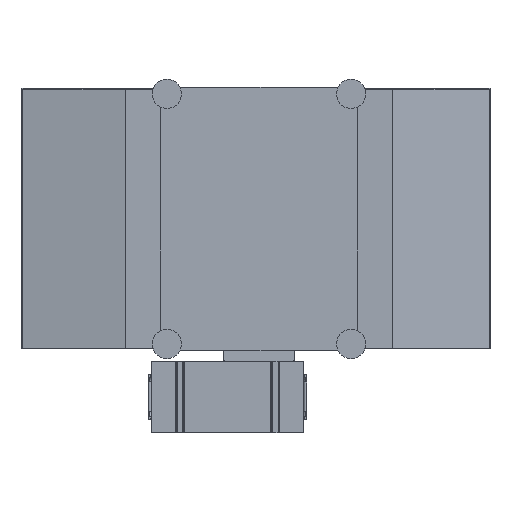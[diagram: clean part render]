
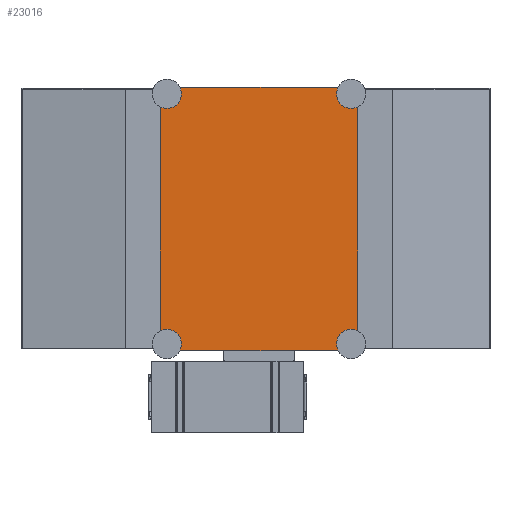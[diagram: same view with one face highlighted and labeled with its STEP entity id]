
A CAD part, front view. The second image highlights one B-rep face of the part: STEP entity #23016.
In plain terms, the highlighted planar face has unit normal (0, -1, 0).
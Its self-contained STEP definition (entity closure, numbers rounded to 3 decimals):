
#637 = VERTEX_POINT ( 'NONE', #8741 ) ;
#840 = VERTEX_POINT ( 'NONE', #12333 ) ;
#889 = VERTEX_POINT ( 'NONE', #12315 ) ;
#943 = VERTEX_POINT ( 'NONE', #12308 ) ;
#949 = VERTEX_POINT ( 'NONE', #23548 ) ;
#961 = VERTEX_POINT ( 'NONE', #23523 ) ;
#963 = VERTEX_POINT ( 'NONE', #23541 ) ;
#1063 = VERTEX_POINT ( 'NONE', #11976 ) ;
#1147 = VERTEX_POINT ( 'NONE', #18932 ) ;
#1255 = VERTEX_POINT ( 'NONE', #12243 ) ;
#1352 = VERTEX_POINT ( 'NONE', #11579 ) ;
#1443 = VERTEX_POINT ( 'NONE', #9397 ) ;
#2506 = EDGE_CURVE ( 'NONE', #963, #1147, #24537, .T. ) ;
#2586 = EDGE_CURVE ( 'NONE', #1352, #1443, #24358, .T. ) ;
#2616 = EDGE_CURVE ( 'NONE', #943, #889, #23440, .T. ) ;
#2644 = EDGE_CURVE ( 'NONE', #1255, #840, #23488, .T. ) ;
#2698 = EDGE_CURVE ( 'NONE', #1063, #1352, #23637, .T. ) ;
#2849 = EDGE_CURVE ( 'NONE', #1063, #1147, #24058, .T. ) ;
#2862 = EDGE_CURVE ( 'NONE', #840, #889, #24111, .T. ) ;
#2898 = EDGE_CURVE ( 'NONE', #949, #963, #24281, .T. ) ;
#3930 = EDGE_LOOP ( 'NONE', ( #8163, #8162, #8161, #8160, #8159, #8158, #8157, #8156, #8155, #8154, #8153, #8152 ) ) ;
#5670 = PLANE ( 'NONE',  #16961 ) ;
#5671 = CARTESIAN_POINT ( 'NONE',  ( 0., 83., 0. ) ) ;
#5676 = DIRECTION ( 'NONE',  ( 0., -1., 0. ) ) ;
#5677 = DIRECTION ( 'NONE',  ( 0., 0., -1. ) ) ;
#6035 = CARTESIAN_POINT ( 'NONE',  ( -308., 83., -418. ) ) ;
#6036 = DIRECTION ( 'NONE',  ( 0., 1., 0. ) ) ;
#6037 = DIRECTION ( 'NONE',  ( 0., 0., 1. ) ) ;
#6218 = DIRECTION ( 'NONE',  ( 0., 0., -1. ) ) ;
#6378 = CARTESIAN_POINT ( 'NONE',  ( 308., 83., -418. ) ) ;
#6379 = DIRECTION ( 'NONE',  ( 0., 1., 0. ) ) ;
#6381 = DIRECTION ( 'NONE',  ( 0., 0., 1. ) ) ;
#7288 = CARTESIAN_POINT ( 'NONE',  ( -308., 83., -418. ) ) ;
#7289 = DIRECTION ( 'NONE',  ( 0., 1., 0. ) ) ;
#7290 = DIRECTION ( 'NONE',  ( 0., 0., 1. ) ) ;
#7352 = CARTESIAN_POINT ( 'NONE',  ( 330., 83., 440. ) ) ;
#8152 = ORIENTED_EDGE ( 'NONE', *, *, #2506, .T. ) ;
#8153 = ORIENTED_EDGE ( 'NONE', *, *, #2898, .T. ) ;
#8154 = ORIENTED_EDGE ( 'NONE', *, *, #16045, .F. ) ;
#8155 = ORIENTED_EDGE ( 'NONE', *, *, #16488, .T. ) ;
#8156 = ORIENTED_EDGE ( 'NONE', *, *, #16505, .T. ) ;
#8157 = ORIENTED_EDGE ( 'NONE', *, *, #2616, .F. ) ;
#8158 = ORIENTED_EDGE ( 'NONE', *, *, #2862, .T. ) ;
#8159 = ORIENTED_EDGE ( 'NONE', *, *, #2644, .T. ) ;
#8160 = ORIENTED_EDGE ( 'NONE', *, *, #15787, .F. ) ;
#8161 = ORIENTED_EDGE ( 'NONE', *, *, #2586, .T. ) ;
#8162 = ORIENTED_EDGE ( 'NONE', *, *, #2698, .T. ) ;
#8163 = ORIENTED_EDGE ( 'NONE', *, *, #2849, .F. ) ;
#8741 = CARTESIAN_POINT ( 'NONE',  ( 292.348, 83., 440. ) ) ;
#8768 = CARTESIAN_POINT ( 'NONE',  ( 308., 83., -418. ) ) ;
#8769 = DIRECTION ( 'NONE',  ( 0., 1., 0. ) ) ;
#8770 = DIRECTION ( 'NONE',  ( 0., 0., 1. ) ) ;
#8853 = CARTESIAN_POINT ( 'NONE',  ( -308., 83., 418. ) ) ;
#8854 = DIRECTION ( 'NONE',  ( 0., 1., 0. ) ) ;
#8855 = DIRECTION ( 'NONE',  ( 0., 0., 1. ) ) ;
#9263 = CARTESIAN_POINT ( 'NONE',  ( -308., 83., 418. ) ) ;
#9264 = DIRECTION ( 'NONE',  ( 0., 1., 0. ) ) ;
#9265 = DIRECTION ( 'NONE',  ( 0., 0., 1. ) ) ;
#9397 = CARTESIAN_POINT ( 'NONE',  ( -292.348, 83., -440. ) ) ;
#9937 = CARTESIAN_POINT ( 'NONE',  ( -330., 83., 440. ) ) ;
#9938 = DIRECTION ( 'NONE',  ( 0., 0., 1. ) ) ;
#10280 = CARTESIAN_POINT ( 'NONE',  ( -330., 83., 440. ) ) ;
#10281 = DIRECTION ( 'NONE',  ( 1., 0., 0. ) ) ;
#11151 = FACE_OUTER_BOUND ( 'NONE', #3930, .T. ) ;
#11579 = CARTESIAN_POINT ( 'NONE',  ( -308., 83., -391. ) ) ;
#11976 = CARTESIAN_POINT ( 'NONE',  ( -330., 83., -402.348 ) ) ;
#12180 = CARTESIAN_POINT ( 'NONE',  ( -330., 83., -440. ) ) ;
#12181 = DIRECTION ( 'NONE',  ( -1., 0., 0. ) ) ;
#12243 = CARTESIAN_POINT ( 'NONE',  ( 292.348, 83., -440. ) ) ;
#12308 = CARTESIAN_POINT ( 'NONE',  ( 330., 83., 402.348 ) ) ;
#12315 = CARTESIAN_POINT ( 'NONE',  ( 330., 83., -402.348 ) ) ;
#12333 = CARTESIAN_POINT ( 'NONE',  ( 308., 83., -391. ) ) ;
#13447 = CIRCLE ( 'NONE', #17321, 27. ) ;
#13463 = CIRCLE ( 'NONE', #17327, 27. ) ;
#14038 = VECTOR ( 'NONE', #10281, 1000. ) ;
#14041 = LINE ( 'NONE', #10280, #14038 ) ;
#14064 = LINE ( 'NONE', #12180, #14144 ) ;
#14144 = VECTOR ( 'NONE', #12181, 1000. ) ;
#15078 = CARTESIAN_POINT ( 'NONE',  ( 308., 83., 418. ) ) ;
#15079 = DIRECTION ( 'NONE',  ( 0., 1., 0. ) ) ;
#15080 = DIRECTION ( 'NONE',  ( 0., 0., 1. ) ) ;
#15093 = CARTESIAN_POINT ( 'NONE',  ( 308., 83., 418. ) ) ;
#15094 = DIRECTION ( 'NONE',  ( 0., 1., 0. ) ) ;
#15095 = DIRECTION ( 'NONE',  ( 0., 0., 1. ) ) ;
#15595 = AXIS2_PLACEMENT_3D ( 'NONE', #6035, #6036, #6037 ) ;
#15600 = AXIS2_PLACEMENT_3D ( 'NONE', #8853, #8854, #8855 ) ;
#15714 = AXIS2_PLACEMENT_3D ( 'NONE', #6378, #6379, #6381 ) ;
#15787 = EDGE_CURVE ( 'NONE', #1255, #1443, #14064, .T. ) ;
#15964 = AXIS2_PLACEMENT_3D ( 'NONE', #7288, #7289, #7290 ) ;
#16026 = AXIS2_PLACEMENT_3D ( 'NONE', #9263, #9264, #9265 ) ;
#16045 = EDGE_CURVE ( 'NONE', #949, #637, #14041, .T. ) ;
#16488 = EDGE_CURVE ( 'NONE', #961, #637, #13463, .T. ) ;
#16505 = EDGE_CURVE ( 'NONE', #943, #961, #13447, .T. ) ;
#16750 = AXIS2_PLACEMENT_3D ( 'NONE', #8768, #8769, #8770 ) ;
#16961 = AXIS2_PLACEMENT_3D ( 'NONE', #5671, #5676, #5677 ) ;
#17321 = AXIS2_PLACEMENT_3D ( 'NONE', #15093, #15094, #15095 ) ;
#17327 = AXIS2_PLACEMENT_3D ( 'NONE', #15078, #15079, #15080 ) ;
#18932 = CARTESIAN_POINT ( 'NONE',  ( -330., 83., 402.348 ) ) ;
#23016 = ADVANCED_FACE ( 'NONE', ( #11151 ), #5670, .T. ) ;
#23440 = LINE ( 'NONE', #7352, #23445 ) ;
#23445 = VECTOR ( 'NONE', #6218, 1000. ) ;
#23488 = CIRCLE ( 'NONE', #15714, 27. ) ;
#23523 = CARTESIAN_POINT ( 'NONE',  ( 308., 83., 391. ) ) ;
#23541 = CARTESIAN_POINT ( 'NONE',  ( -308., 83., 391. ) ) ;
#23548 = CARTESIAN_POINT ( 'NONE',  ( -292.348, 83., 440. ) ) ;
#23637 = CIRCLE ( 'NONE', #15595, 27. ) ;
#24058 = LINE ( 'NONE', #9937, #24059 ) ;
#24059 = VECTOR ( 'NONE', #9938, 1000. ) ;
#24111 = CIRCLE ( 'NONE', #16750, 27. ) ;
#24281 = CIRCLE ( 'NONE', #15600, 27. ) ;
#24358 = CIRCLE ( 'NONE', #15964, 27. ) ;
#24537 = CIRCLE ( 'NONE', #16026, 27. ) ;
